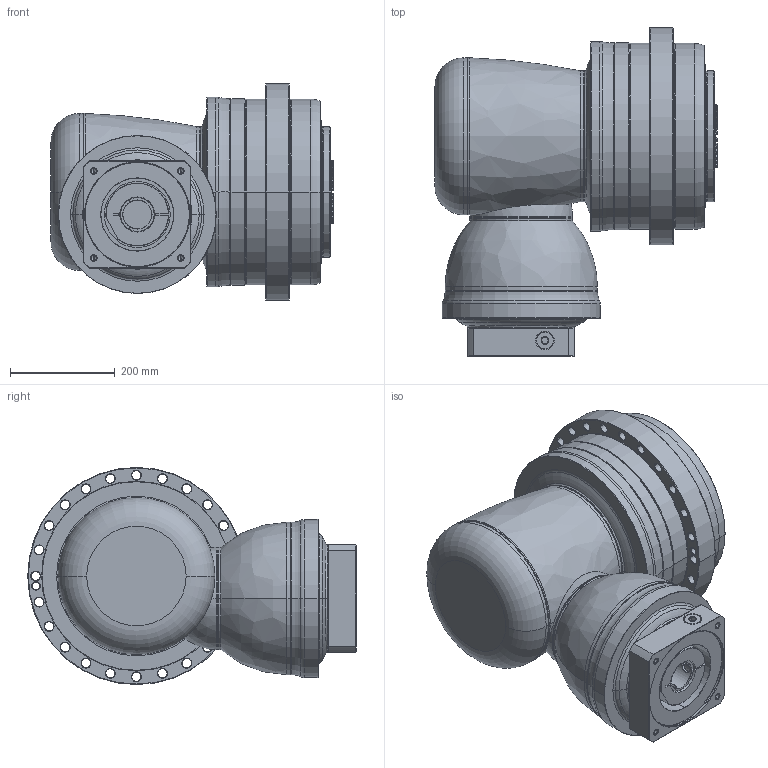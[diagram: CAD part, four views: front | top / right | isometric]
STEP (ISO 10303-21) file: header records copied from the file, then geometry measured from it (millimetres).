
FILE_DESCRIPTION((''),'2;1');
FILE_NAME('APCK355_2ST_55-P0409C00201_ASM','2018-05-10T',('d01226'),(''),'PRO/ENGINEER BY PARAMETRIC TECHNOLOGY CORPORATION, 2008410','PRO/ENGINEER BY PARAMETRIC TECHNOLOGY CORPORATION, 2008410','');
FILE_SCHEMA(('CONFIG_CONTROL_DESIGN'));
Length unit declared in the file: millimetre
Products named in the file (13): P1008800002; P1315800001; P1007801001; P1318810401; P0409C00201; P0503C00016; P0912804001; 21711426021; P1831100001; P0276101003; P03571G0103; P1222100001; APCK355_2ST_55-P0409C00201_ASM
Assembly tree (12 placements, depth 2):
  APCK355_2ST_55-P0409C00201_ASM
    P1008800002
    P1315800001
    P1007801001
    P1318810401
    P0409C00201
    P0503C00016
    P0912804001
    21711426021
    P1831100001
    P0276101003
    P03571G0103
    P1222100001
Bounding box: 539.1 x 627.5 x 415 mm (x, y, z)
Volume: 60383320.8 mm3; surface area: 2557856.5 mm2
Topology: 13 solids, 25 shells, 820 faces, 1963 edges, 1201 vertices
Faces by surface type: cone 258, cylinder 228, plane 156, torus 156, bspline 20, sphere 2
Entity records: 30779 total; most frequent: CARTESIAN_POINT 11192, DIRECTION 4400, ORIENTED_EDGE 3848, AXIS2_PLACEMENT_3D 1951, EDGE_CURVE 1949, VERTEX_POINT 1201, CIRCLE 1114, EDGE_LOOP 934
